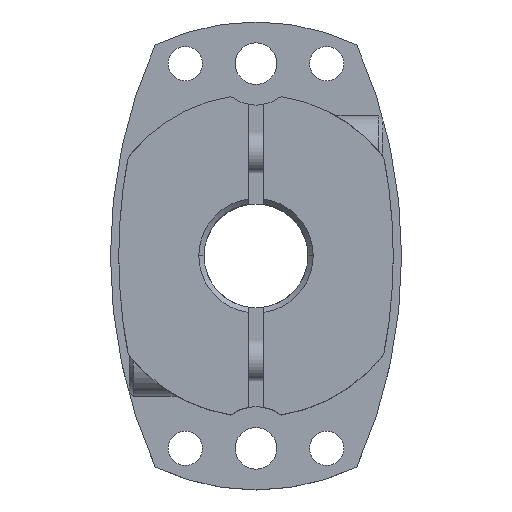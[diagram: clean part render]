
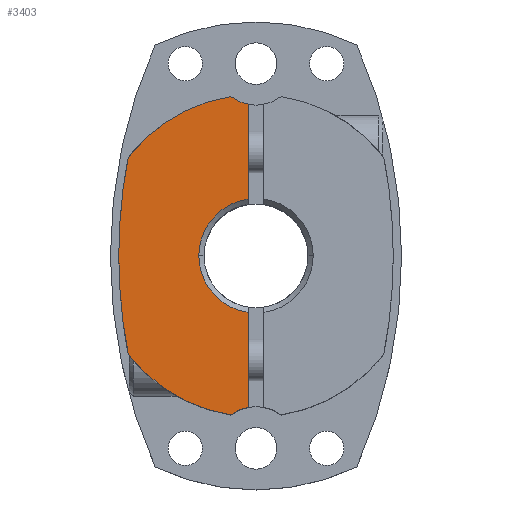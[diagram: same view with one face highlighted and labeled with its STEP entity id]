
A CAD part, top view. The second image highlights one B-rep face of the part: STEP entity #3403.
In plain terms, the highlighted planar face has unit normal (0, 0, 1).
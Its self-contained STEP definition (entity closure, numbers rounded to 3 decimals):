
#412=CARTESIAN_POINT('',(-5.5,0.,14.5));
#413=VERTEX_POINT('',#412);
#421=CARTESIAN_POINT('',(-0.75,5.449,14.5));
#422=VERTEX_POINT('',#421);
#436=CARTESIAN_POINT('',(0.,0.0,14.5));
#437=DIRECTION('',(0.0,0.0,1.0));
#438=DIRECTION('',(-1.0,0.0,0.0));
#439=AXIS2_PLACEMENT_3D('',#436,#437,#438);
#440=CIRCLE('',#439,5.5);
#441=EDGE_CURVE('',#422,#413,#440,.T.);
#451=CARTESIAN_POINT('',(-13.2,0.,14.5));
#452=VERTEX_POINT('',#451);
#461=CARTESIAN_POINT('',(-12.283,9.454,14.5));
#462=VERTEX_POINT('',#461);
#463=CARTESIAN_POINT('',(36.,0.,14.5));
#464=DIRECTION('',(0.0,0.0,-1.0));
#465=DIRECTION('',(1.0,0.0,0.0));
#466=AXIS2_PLACEMENT_3D('',#463,#464,#465);
#467=CIRCLE('',#466,49.2);
#468=EDGE_CURVE('',#452,#462,#467,.T.);
#1918=CARTESIAN_POINT('',(-2.414,-15.311,14.5));
#1919=VERTEX_POINT('',#1918);
#1926=CARTESIAN_POINT('',(-12.283,-9.454,14.5));
#1927=VERTEX_POINT('',#1926);
#1928=CARTESIAN_POINT('',(0.,0.,14.5));
#1929=DIRECTION('',(0.0,0.0,-1.0));
#1930=DIRECTION('',(1.0,0.0,0.0));
#1931=AXIS2_PLACEMENT_3D('',#1928,#1929,#1930);
#1932=CIRCLE('',#1931,15.5);
#1933=EDGE_CURVE('',#1919,#1927,#1932,.T.);
#2614=CARTESIAN_POINT('',(36.,0.,14.5));
#2615=DIRECTION('',(0.0,0.0,-1.0));
#2616=DIRECTION('',(1.0,0.0,0.0));
#2617=AXIS2_PLACEMENT_3D('',#2614,#2615,#2616);
#2618=CIRCLE('',#2617,49.2);
#2619=EDGE_CURVE('',#1927,#452,#2618,.T.);
#2629=CARTESIAN_POINT('',(-0.75,-14.571,14.5));
#2630=VERTEX_POINT('',#2629);
#2639=CARTESIAN_POINT('',(0.,-18.5,14.5));
#2640=DIRECTION('',(0.0,0.0,-1.0));
#2641=DIRECTION('',(1.0,0.0,0.0));
#2642=AXIS2_PLACEMENT_3D('',#2639,#2640,#2641);
#2643=CIRCLE('',#2642,4.0);
#2644=EDGE_CURVE('',#1919,#2630,#2643,.T.);
#2823=CARTESIAN_POINT('',(-0.75,14.571,14.5));
#2824=VERTEX_POINT('',#2823);
#2840=CARTESIAN_POINT('',(-2.414,15.311,14.5));
#2841=VERTEX_POINT('',#2840);
#2848=CARTESIAN_POINT('',(0.,18.5,14.5));
#2849=DIRECTION('',(0.0,0.0,-1.0));
#2850=DIRECTION('',(1.0,0.0,0.0));
#2851=AXIS2_PLACEMENT_3D('',#2848,#2849,#2850);
#2852=CIRCLE('',#2851,4.0);
#2853=EDGE_CURVE('',#2824,#2841,#2852,.T.);
#2967=CARTESIAN_POINT('',(-0.75,-5.449,14.5));
#2968=VERTEX_POINT('',#2967);
#2982=CARTESIAN_POINT('',(-0.75,-14.571,14.5));
#2983=DIRECTION('',(0.0,1.0,0.0));
#2984=VECTOR('',#2983,9.122);
#2985=LINE('',#2982,#2984);
#2986=EDGE_CURVE('',#2630,#2968,#2985,.T.);
#3029=CARTESIAN_POINT('',(-0.75,5.449,14.5));
#3030=DIRECTION('',(0.0,1.0,0.0));
#3031=VECTOR('',#3030,9.122);
#3032=LINE('',#3029,#3031);
#3033=EDGE_CURVE('',#422,#2824,#3032,.T.);
#3341=CARTESIAN_POINT('',(0.,0.,14.5));
#3342=DIRECTION('',(0.0,0.0,-1.0));
#3343=DIRECTION('',(1.0,0.0,0.0));
#3344=AXIS2_PLACEMENT_3D('',#3341,#3342,#3343);
#3345=CIRCLE('',#3344,15.5);
#3346=EDGE_CURVE('',#462,#2841,#3345,.T.);
#3380=CARTESIAN_POINT('',(0.,0.,14.5));
#3381=DIRECTION('',(0.0,0.0,1.0));
#3382=DIRECTION('',(1.0,0.0,0.0));
#3383=AXIS2_PLACEMENT_3D('',#3380,#3381,#3382);
#3384=PLANE('',#3383);
#3385=ORIENTED_EDGE('',*,*,#2644,.T.);
#3386=ORIENTED_EDGE('',*,*,#2986,.T.);
#3387=CARTESIAN_POINT('',(0.,0.0,14.5));
#3388=DIRECTION('',(0.0,0.0,1.0));
#3389=DIRECTION('',(-1.0,0.0,0.0));
#3390=AXIS2_PLACEMENT_3D('',#3387,#3388,#3389);
#3391=CIRCLE('',#3390,5.5);
#3392=EDGE_CURVE('',#413,#2968,#3391,.T.);
#3393=ORIENTED_EDGE('',*,*,#3392,.F.);
#3394=ORIENTED_EDGE('',*,*,#441,.F.);
#3395=ORIENTED_EDGE('',*,*,#3033,.T.);
#3396=ORIENTED_EDGE('',*,*,#2853,.T.);
#3397=ORIENTED_EDGE('',*,*,#3346,.F.);
#3398=ORIENTED_EDGE('',*,*,#468,.F.);
#3399=ORIENTED_EDGE('',*,*,#2619,.F.);
#3400=ORIENTED_EDGE('',*,*,#1933,.F.);
#3401=EDGE_LOOP('',(#3385,#3386,#3393,#3394,#3395,#3396,#3397,#3398,#3399,#3400));
#3402=FACE_OUTER_BOUND('',#3401,.T.);
#3403=ADVANCED_FACE('',(#3402),#3384,.T.);
